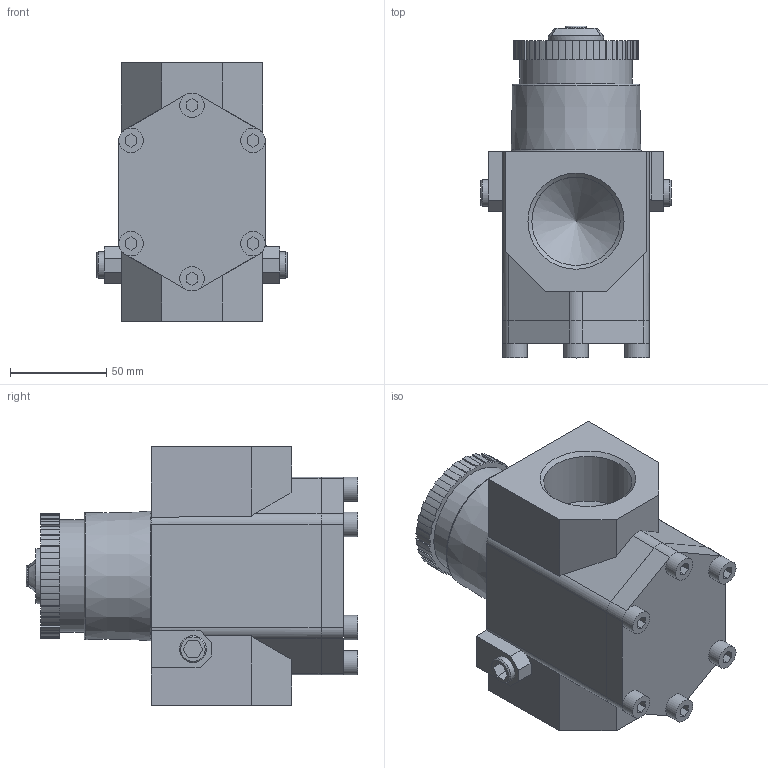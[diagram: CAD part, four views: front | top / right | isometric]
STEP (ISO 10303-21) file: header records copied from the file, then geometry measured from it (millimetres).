
FILE_DESCRIPTION((''),'2;1');
FILE_NAME('U:\AirCom-Produktdokumentation\Druckregler\R41\Zeichnungen\CAD-Aircom\3D\B-R41-CB-x.stp','2012-02-21T15:56:25',('frank schroers'),(''),'Autodesk Inventor 2008','Autodesk Inventor 2008','');
FILE_SCHEMA(('AUTOMOTIVE_DESIGN { 1 0 10303 214 1 1 1 1 }'));
Length unit declared in the file: inch
Products named in the file (10): B-R41-CB-x; Dial Air Regulator R41-0C-L00_1; Dial Air Regulator R41-0C-L00_2; Dial Air Regulator R41-0C-L00_3; Dial Air Regulator R41-0C-L00_4; Dial Air Regulator R41-0C-L00_5; Dial Air Regulator R41-0C-L00_6; Dial Air Regulator R41-0C-L00_8; Dial Air Regulator R41-0C-L00_9
Assembly tree (9 placements, depth 2):
  B-R41-CB-x
    Dial Air Regulator R41-0C-L00_1
    Dial Air Regulator R41-0C-L00_2
    Dial Air Regulator R41-0C-L00_3
    Dial Air Regulator R41-0C-L00_4
    Dial Air Regulator R41-0C-L00_5
    Dial Air Regulator R41-0C-L00_6
    B-R41-CB-x
    Dial Air Regulator R41-0C-L00_8
    Dial Air Regulator R41-0C-L00_9
Bounding box: 99.06 x 172.72 x 134.62 mm (x, y, z)
Volume: 953890.6 mm3; surface area: 99873 mm2
Topology: 9 solids, 9 shells, 310 faces, 826 edges, 547 vertices
Faces by surface type: plane 211, cylinder 82, cone 9, bspline 6, torus 2
Full cylindrical faces by diameter (mm): 8.509 x1, 11.176 x1, 12.7 x6, 13.97 x2, 28.702 x1, 46 x2, 58.42 x1
Entity records: 10096 total; most frequent: CARTESIAN_POINT 1867, DIRECTION 1616, ORIENTED_EDGE 1580, EDGE_CURVE 790, VECTOR 588, LINE 588, VERTEX_POINT 537, AXIS2_PLACEMENT_3D 514
